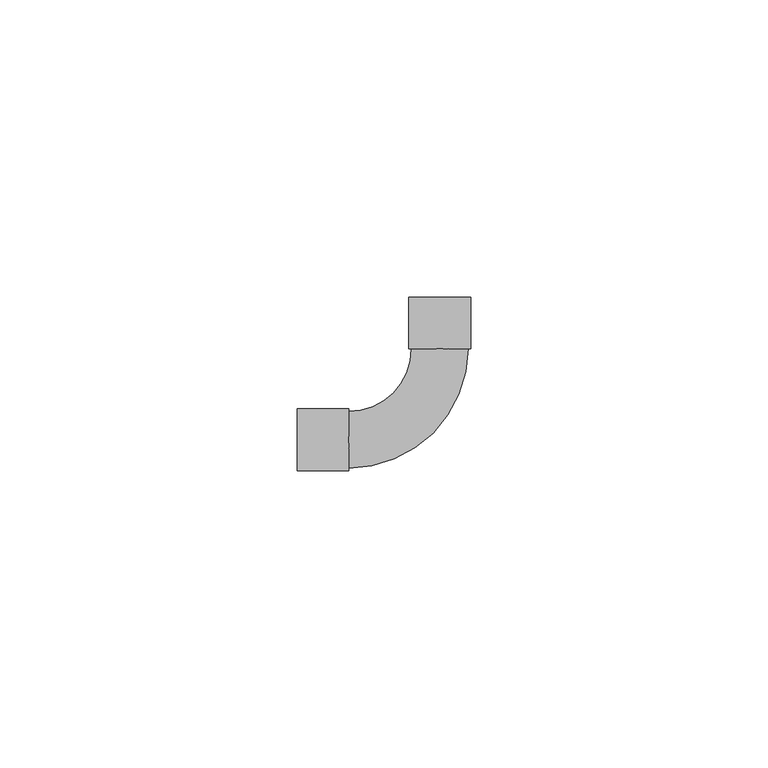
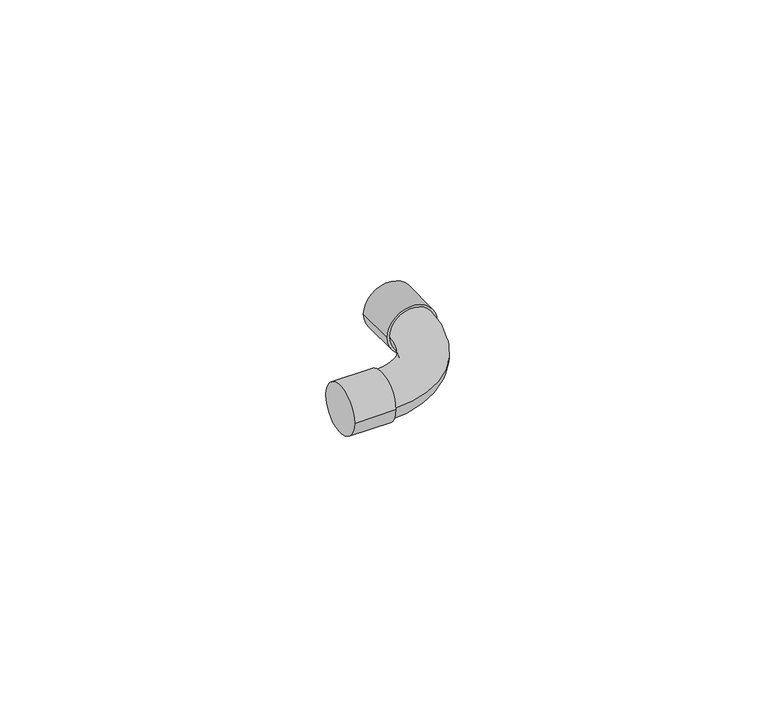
"""IFC4 building model written with IfcOpenShell, lengths in millimetres: pipe fitting geometry, Cotovelo - Soldado - CU : Padrão."""

from ifc_helpers import new_model, si_unit, point, frame, origin, place, context, project, spatial, circle_curve, ellipse_curve, trimmed, source, transform, mapped, element, save
from ifc_brep_helpers import plane_surface, cylinder_surface, revolved_surface, advanced_brep


def pipe_fitting_648138cd(model_context):
    return source(origin(), model_context, "Body", "AdvancedBrep", [
        advanced_brep(
        [(-4.76, 15.3512, 0.0), (-15.3512, 4.76, 0.0), (-15.3512, -4.76, 0.0), (4.76, 15.3512, 0.0), (-24.0256, -5.2552, 0.0), (-24.0256, 5.2552, 0.0), (-15.3512, -5.2552, 0.0), (-15.3512, 5.2552, 0.0), (-5.2552, 24.0256, 0.0), (5.2552, 24.0256, 0.0), (-5.2552, 15.3512, 0.0), (5.2552, 15.3512, 0.0)],
        [
            (0, 1, circle_curve(frame((-15.3512, 15.3512, 0.0), z_axis=(0.0, 0.0, -1.0), x_axis=(0.0, -1.0, 0.0)), 10.5912)),
            (1, 2, circle_curve(frame((-15.3512, 0.0, 0.0), z_axis=(1.0, 0.0, 0.0), x_axis=(0.0, 1.0, 0.0)), 4.76)),
            (2, 3, circle_curve(frame((-15.3512, 15.3512, 0.0), z_axis=(0.0, 0.0, 1.0), x_axis=(0.0, -1.0, 0.0)), 20.1112)),
            (3, 0, circle_curve(frame((0.0, 15.3512, 0.0), z_axis=(0.0, -1.0, 0.0), x_axis=(-1.0, 0.0, 0.0)), 4.76)),
            (0, 3, circle_curve(frame((0.0, 15.3512, 0.0), z_axis=(0.0, -1.0, 0.0), x_axis=(-1.0, 0.0, 0.0)), 4.76)),
            (2, 1, circle_curve(frame((-15.3512, 0.0, 0.0), z_axis=(1.0, 0.0, 0.0), x_axis=(0.0, 1.0, 0.0)), 4.76)),
            (4, 5, circle_curve(frame((-24.0256, 0.0, 0.0), z_axis=(-1.0, 0.0, 0.0), x_axis=(0.0, 1.0, 0.0)), 5.2552)),
            (5, 4, circle_curve(frame((-24.0256, 0.0, 0.0), z_axis=(-1.0, 0.0, 0.0), x_axis=(0.0, 1.0, 0.0)), 5.2552)),
            (6, 7, circle_curve(frame((-15.3512, 0.0, 0.0), z_axis=(1.0, 0.0, 0.0), x_axis=(0.0, 1.0, 0.0)), 5.2552)),
            (7, 6, circle_curve(frame((-15.3512, 0.0, 0.0), z_axis=(1.0, 0.0, 0.0), x_axis=(0.0, 1.0, 0.0)), 5.2552)),
            (4, 6),
            (7, 5),
            (8, 9, circle_curve(frame((0.0, 24.0256, 0.0), z_axis=(0.0, 1.0, 0.0), x_axis=(1.0, 0.0, 0.0)), 5.2552)),
            (9, 8, circle_curve(frame((0.0, 24.0256, 0.0), z_axis=(0.0, 1.0, 0.0), x_axis=(1.0, 0.0, 0.0)), 5.2552)),
            (10, 11, circle_curve(frame((0.0, 15.3512, 0.0), z_axis=(0.0, -1.0, 0.0), x_axis=(1.0, 0.0, 0.0)), 5.2552)),
            (11, 10, circle_curve(frame((0.0, 15.3512, 0.0), z_axis=(0.0, -1.0, 0.0), x_axis=(1.0, 0.0, 0.0)), 5.2552)),
            (8, 10),
            (11, 9),
        ],
        [
            revolved_surface(trimmed(ellipse_curve(frame((-15.3512, 0.0, 0.0), z_axis=(-1.0, 0.0, 0.0), x_axis=(0.0, 1.0, 0.0)), 4.76, 4.76), [point((-15.3512, -4.76, 0.0))], [point((-15.3512, 4.76, 0.0))], True, "CARTESIAN"), (-15.3512, 15.3512, 0.0), (0.0, 0.0, 1.0)),
            revolved_surface(trimmed(ellipse_curve(frame((-15.3512, 0.0, 0.0), z_axis=(-1.0, 0.0, 0.0), x_axis=(0.0, 1.0, 0.0)), 4.76, 4.76), [point((-15.3512, 4.76, 0.0))], [point((-15.3512, -4.76, 0.0))], True, "CARTESIAN"), (-15.3512, 15.3512, 0.0), (0.0, 0.0, 1.0)),
            plane_surface(frame((-24.0256, 0.0, 0.0), z_axis=(-1.0, 0.0, 0.0), x_axis=(0.0, 0.0, 1.0))),
            plane_surface(frame((-15.3512, 0.0, 0.0), z_axis=(1.0, 0.0, 0.0), x_axis=(0.0, 0.0, 1.0))),
            cylinder_surface(frame((-24.0256, 0.0, 0.0), z_axis=(-1.0, 0.0, 0.0), x_axis=(0.0, 1.0, 0.0)), 5.2552),
            plane_surface(frame((0.0, 24.0256, 0.0), z_axis=(0.0, 1.0, 0.0), x_axis=(0.0, 0.0, 1.0))),
            plane_surface(frame((0.0, 15.3512, 0.0), z_axis=(0.0, -1.0, 0.0), x_axis=(0.0, 0.0, 1.0))),
            cylinder_surface(frame((0.0, 24.0256, 0.0), z_axis=(0.0, 1.0, 0.0), x_axis=(1.0, 0.0, 0.0)), 5.2552),
        ],
        [
            (0, [[1, 2, 3, 4]]),
            (1, [[-1, 5, -3, 6]]),
            (2, [[7, 8]]),
            (3, [[9, 10], [-2, -6]]),
            (4, [[-7, 11, -10, 12]]),
            (4, [[-8, -12, -9, -11]]),
            (5, [[13, 14]]),
            (6, [[15, 16], [-4, -5]]),
            (7, [[-13, 17, -16, 18]]),
            (7, [[-14, -18, -15, -17]]),
        ],
    ),
    ])


if __name__ == "__main__":
    model = new_model("IFC4")
    model_context = context("Model", 3, world=origin())
    ifc_project = project(units=[si_unit("LENGTHUNIT", "METRE", prefix="MILLI")], contexts=[model_context])
    site = spatial("IfcSite", under=ifc_project)
    building = spatial("IfcBuilding", under=site)
    placement = place(None, origin())
    pipe_fitting_shape = pipe_fitting_648138cd(model_context)
    element("IfcPipeFitting", 1, ObjectType="Cotovelo - Soldado - CU : Padrão", at=placement, inside=building, context=model_context, shape_type="MappedRepresentation", body=[
        mapped(pipe_fitting_shape, transform((0.0, 0.0, 0.0), x_axis=(1.0, 0.0, 0.0), y_axis=(0.0, 1.0, 0.0), z_axis=(0.0, 0.0, 1.0))),
    ])
    save(model, "model.ifc")
